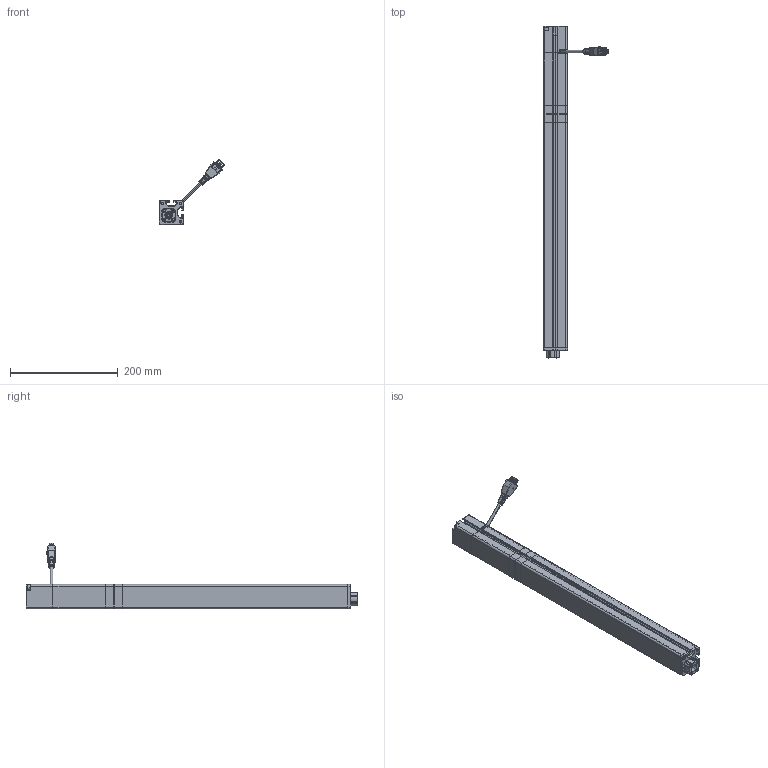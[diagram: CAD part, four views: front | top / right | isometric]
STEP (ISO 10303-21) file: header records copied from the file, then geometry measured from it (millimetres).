
FILE_DESCRIPTION (( 'STEP AP214' ), '1' );
FILE_NAME ('T045B300617GGG24.STEP', '2024-05-23T14:01:53', ( '' ), ( '' ), 'SwSTEP 2.0', 'SolidWorks 2021', '' );
FILE_SCHEMA (( 'AUTOMOTIVE_DESIGN' ));
Length unit declared in the file: millimetre
Products named in the file (14): Kopie von vergossene Zugentlastung für Molex-Stecker 39-01-2080^Kopie von EZ02252_EZ03333; EZ03335; EZ02930_ohne Flansch; Kopie von EZ02252^EZ03333_Einbau-Version; EZ03446_L„nge: 98mm; Gewindestift DIN 913 - M5 x 12_DIN 913 - M5 x 12-N - 45H; EZ02933_L„nge: 419mm; EZ03446_L„nge: 419mm; Kopie von UL-Kabel Mantel sw EZ02252^Kopie von EZ02252_EZ03333_Einbau-Version-kurz; T045B300617GGG24; DIN 912 M5 x 180 --- 22N - 8.8_DIN 912 M5 x 180 --- 22N - 8.8; Kopie von MOLEX - 39-01-2080 - Buchsengehäuse 8-pol.^Kopie von EZ02252_EZ03333; Gewindeeinsatz-302200050110; EZ02936-Stern
Assembly tree (18 placements, depth 3):
  T045B300617GGG24
    EZ03446_L„nge: 98mm
    EZ03446_L„nge: 419mm
    EZ02933_L„nge: 419mm
    EZ02930_ohne Flansch
    EZ03335  x2
    EZ02936-Stern
    Gewindeeinsatz-302200050110  x2
    DIN 912 M5 x 180 --- 22N - 8.8_DIN 912 M5 x 180 --- 22N - 8.8  x2
    Gewindestift DIN 913 - M5 x 12_DIN 913 - M5 x 12-N - 45H  x3
    Kopie von EZ02252^EZ03333_Einbau-Version
      Kopie von UL-Kabel Mantel sw EZ02252^Kopie von EZ02252_EZ03333_Einbau-Version-kurz
      Kopie von MOLEX - 39-01-2080 - Buchsengehäuse 8-pol.^Kopie von EZ02252_EZ03333
      Kopie von vergossene Zugentlastung für Molex-Stecker 39-01-2080^Kopie von EZ02252_EZ03333
Bounding box: 121.57 x 617 x 121.43 mm (x, y, z)
Volume: 591281.9 mm3; surface area: 394570.2 mm2
Topology: 17 solids, 17 shells, 3299 faces, 8496 edges, 5252 vertices
Faces by surface type: cylinder 1167, plane 1116, cone 403, torus 306, bspline 218, sphere 89
Entity records: 89823 total; most frequent: CARTESIAN_POINT 22316, ORIENTED_EDGE 14316, DIRECTION 14193, EDGE_CURVE 7158, AXIS2_PLACEMENT_3D 5453, VERTEX_POINT 4471, VECTOR 3287, LINE 3287
